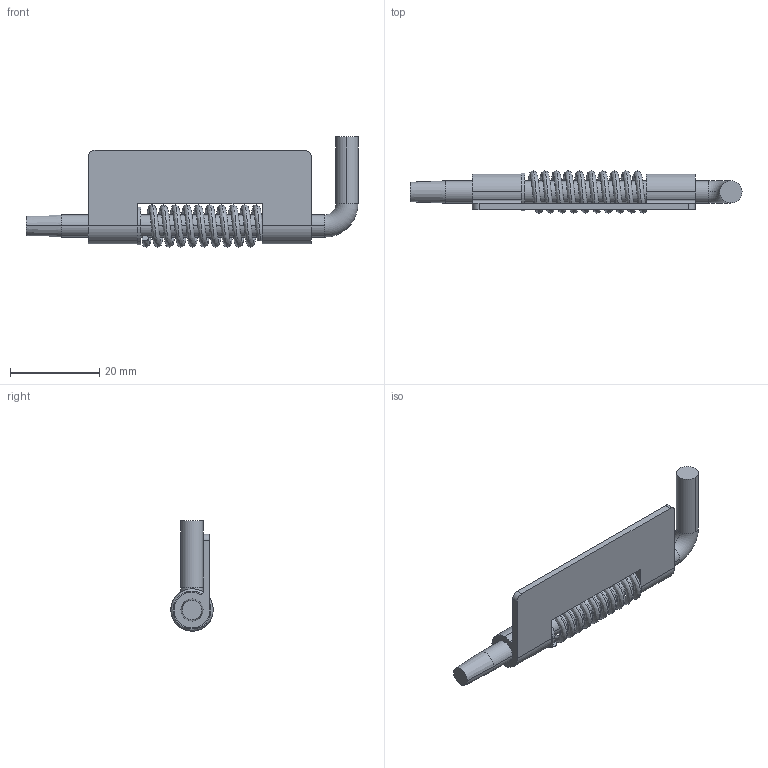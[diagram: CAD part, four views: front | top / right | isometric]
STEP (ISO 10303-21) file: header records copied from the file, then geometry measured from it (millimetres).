
FILE_DESCRIPTION (( 'STEP AP203' ), '1' );
FILE_NAME ('B12-02020.STEP', '2024-07-31T00:26:11', ( '' ), ( '' ), 'SwSTEP 2.0', 'SolidWorks 2021', '' );
FILE_SCHEMA (( 'CONFIG_CONTROL_DESIGN' ));
Length unit declared in the file: millimetre
Products named in the file (4): B12-2-1; B12-02020; B12-2-銷; B12-2-彈
Assembly tree (3 placements, depth 2):
  B12-02020
    B12-2-1
    B12-2-彈
    B12-2-銷
Bounding box: 74.5 x 9.48 x 24.74 mm (x, y, z)
Volume: 3941.5 mm3; surface area: 5219.5 mm2
Topology: 3 solids, 3 shells, 44 faces, 106 edges, 70 vertices
Faces by surface type: cylinder 22, plane 16, bspline 2, torus 2, cone 2
Entity records: 4990 total; most frequent: CARTESIAN_POINT 3500, DIRECTION 256, ORIENTED_EDGE 212, EDGE_CURVE 106, AXIS2_PLACEMENT_3D 106, VERTEX_POINT 70, CIRCLE 58, EDGE_LOOP 50
